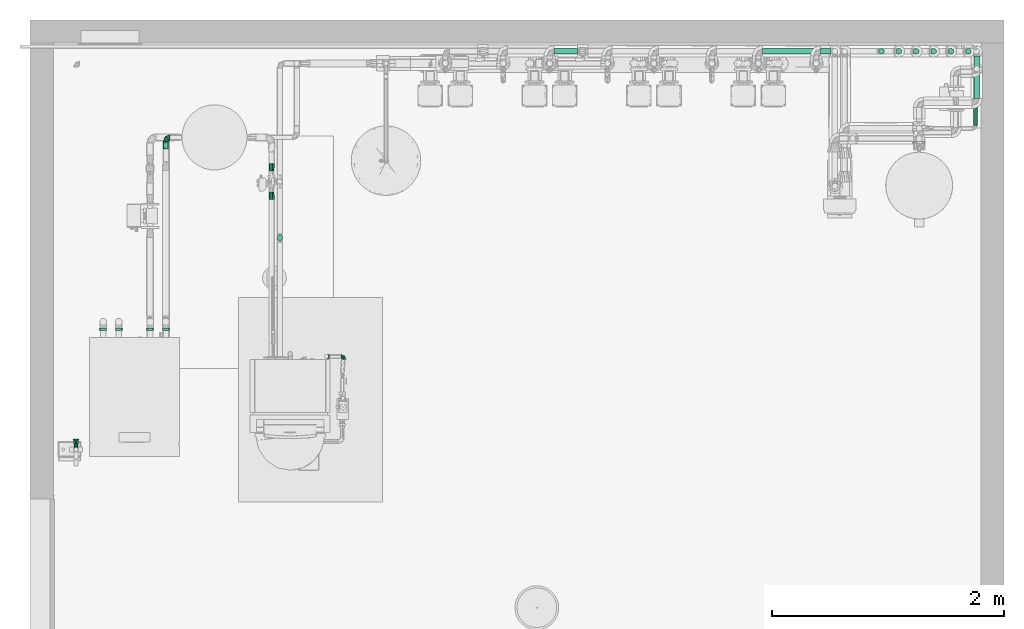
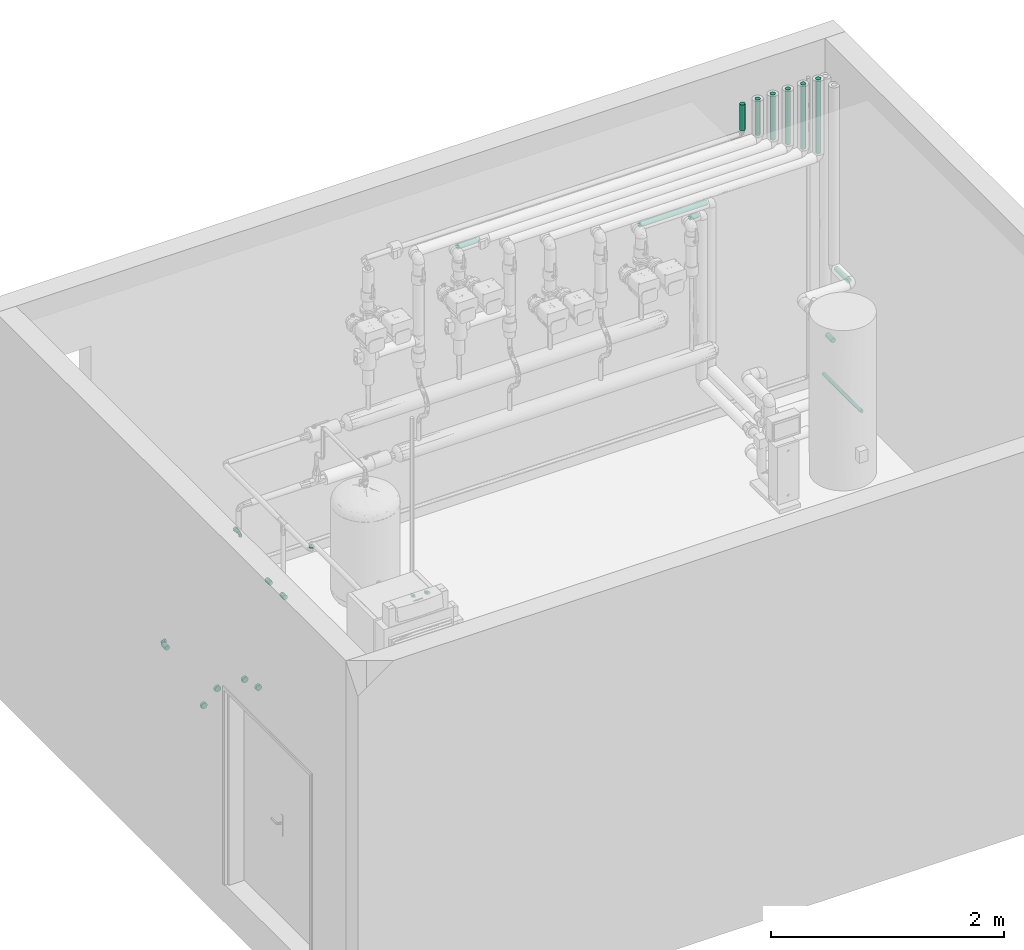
# One storey, part 87 of 94: 17 flow segments, 8 flow fittings.
"""IFC2X3 building model written with IfcOpenShell, lengths in millimetres."""

from ifc_helpers import new_model, entity, si_unit, converted_unit, derived_unit, direction, frame, frame_2d, origin, origin_2d_with_axis, place, context, subcontext, project, spatial, circle, extrude, faceted_brep, source, transform, mapped, material, type_object, type_shapes, element, save


model = new_model("IFC2X3")

# Units and contexts
model_context = context("Model", 3, precision=0.01, world=origin(), true_north=direction((6.123031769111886e-17, 1.0)))
body_context = subcontext(model_context, "Body", "Model", "MODEL_VIEW")
ifc_project = project(units=[si_unit("LENGTHUNIT", "METRE", prefix="MILLI"), si_unit("AREAUNIT", "SQUARE_METRE"), si_unit("VOLUMEUNIT", "CUBIC_METRE"), converted_unit("PLANEANGLEUNIT", "DEGREE", entity("IfcRatioMeasure", 0.017453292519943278), si_unit("PLANEANGLEUNIT", "RADIAN"), dimensions=[0, 0, 0, 0, 0, 0, 0]), si_unit("MASSUNIT", "GRAM", prefix="KILO"), derived_unit("MASSDENSITYUNIT", [(si_unit("MASSUNIT", "GRAM", prefix="KILO"), 1), (si_unit("LENGTHUNIT", "METRE"), -3)]), derived_unit("IONCONCENTRATIONUNIT", [(si_unit("MASSUNIT", "GRAM", prefix="KILO"), 1), (si_unit("LENGTHUNIT", "METRE"), -3)]), derived_unit("MOMENTOFINERTIAUNIT", [(si_unit("LENGTHUNIT", "METRE"), 4)]), si_unit("TIMEUNIT", "SECOND"), si_unit("FREQUENCYUNIT", "HERTZ"), si_unit("THERMODYNAMICTEMPERATUREUNIT", "DEGREE_CELSIUS"), derived_unit("THERMALTRANSMITTANCEUNIT", [(si_unit("MASSUNIT", "GRAM", prefix="KILO"), 1), (si_unit("THERMODYNAMICTEMPERATUREUNIT", "KELVIN"), -1), (si_unit("TIMEUNIT", "SECOND"), -3)]), derived_unit("THERMALCONDUCTANCEUNIT", [(si_unit("MASSUNIT", "GRAM", prefix="KILO"), 1), (si_unit("THERMODYNAMICTEMPERATUREUNIT", "KELVIN"), -1), (si_unit("TIMEUNIT", "SECOND"), -3), (si_unit("LENGTHUNIT", "METRE"), 1)]), derived_unit("VOLUMETRICFLOWRATEUNIT", [(si_unit("LENGTHUNIT", "METRE"), 3), (si_unit("TIMEUNIT", "SECOND"), -1)]), derived_unit("MASSFLOWRATEUNIT", [(si_unit("MASSUNIT", "GRAM", prefix="KILO"), 1), (si_unit("TIMEUNIT", "SECOND"), -1)]), derived_unit("ROTATIONALFREQUENCYUNIT", [(si_unit("TIMEUNIT", "SECOND"), -1)]), si_unit("ELECTRICCURRENTUNIT", "AMPERE"), si_unit("ELECTRICVOLTAGEUNIT", "VOLT"), si_unit("POWERUNIT", "WATT"), si_unit("FORCEUNIT", "NEWTON", prefix="KILO"), si_unit("ILLUMINANCEUNIT", "LUX"), si_unit("LUMINOUSFLUXUNIT", "LUMEN"), si_unit("LUMINOUSINTENSITYUNIT", "CANDELA"), derived_unit("USERDEFINED", [(si_unit("MASSUNIT", "GRAM", prefix="KILO"), -1), (si_unit("LENGTHUNIT", "METRE"), -2), (si_unit("TIMEUNIT", "SECOND"), 3), (si_unit("LUMINOUSFLUXUNIT", "LUMEN"), 1)]), derived_unit("USERDEFINED", [(si_unit("MASSUNIT", "GRAM", prefix="KILO"), 1), (si_unit("TIMEUNIT", "SECOND"), -3), (si_unit("LENGTHUNIT", "METRE"), 3), (si_unit("ELECTRICCURRENTUNIT", "AMPERE"), -2)]), derived_unit("SOUNDPOWERUNIT", [(si_unit("MASSUNIT", "GRAM", prefix="KILO"), 1), (si_unit("TIMEUNIT", "SECOND"), -3), (si_unit("LENGTHUNIT", "METRE"), 2)]), derived_unit("SOUNDPRESSUREUNIT", [(si_unit("MASSUNIT", "GRAM", prefix="KILO"), 1), (si_unit("LENGTHUNIT", "METRE"), -1), (si_unit("TIMEUNIT", "SECOND"), -2)]), derived_unit("LINEARVELOCITYUNIT", [(si_unit("LENGTHUNIT", "METRE"), 1), (si_unit("TIMEUNIT", "SECOND"), -1)]), si_unit("PRESSUREUNIT", "PASCAL"), derived_unit("USERDEFINED", [(si_unit("MASSUNIT", "GRAM", prefix="KILO"), 1), (si_unit("LENGTHUNIT", "METRE"), -2), (si_unit("TIMEUNIT", "SECOND"), -2)]), derived_unit("LINEARFORCEUNIT", [(si_unit("MASSUNIT", "GRAM", prefix="KILO"), 1), (si_unit("TIMEUNIT", "SECOND"), -2)]), derived_unit("PLANARFORCEUNIT", [(si_unit("MASSUNIT", "GRAM", prefix="KILO"), 1), (si_unit("LENGTHUNIT", "METRE"), -1), (si_unit("TIMEUNIT", "SECOND"), -2)]), derived_unit("SPECIFICHEATCAPACITYUNIT", [(si_unit("THERMODYNAMICTEMPERATUREUNIT", "KELVIN"), -1), (si_unit("LENGTHUNIT", "METRE"), 2), (si_unit("TIMEUNIT", "SECOND"), -2)]), derived_unit("HEATINGVALUEUNIT", [(si_unit("LENGTHUNIT", "METRE"), 2), (si_unit("TIMEUNIT", "SECOND"), -2)]), derived_unit("VAPORPERMEABILITYUNIT", [(si_unit("LENGTHUNIT", "METRE"), -1), (si_unit("TIMEUNIT", "SECOND"), 1)]), derived_unit("DYNAMICVISCOSITYUNIT", [(si_unit("MASSUNIT", "GRAM", prefix="KILO"), 1), (si_unit("TIMEUNIT", "SECOND"), -1), (si_unit("LENGTHUNIT", "METRE"), -1)]), derived_unit("THERMALEXPANSIONCOEFFICIENTUNIT", [(si_unit("THERMODYNAMICTEMPERATUREUNIT", "KELVIN"), -1)]), derived_unit("MODULUSOFELASTICITYUNIT", [(si_unit("MASSUNIT", "GRAM", prefix="KILO"), 1), (si_unit("LENGTHUNIT", "METRE"), -1), (si_unit("TIMEUNIT", "SECOND"), -2)]), derived_unit("ISOTHERMALMOISTURECAPACITYUNIT", [(si_unit("LENGTHUNIT", "METRE"), 3), (si_unit("MASSUNIT", "GRAM", prefix="KILO"), -1)]), derived_unit("MOISTUREDIFFUSIVITYUNIT", [(si_unit("TIMEUNIT", "SECOND"), -1), (si_unit("LENGTHUNIT", "METRE"), 2)])], contexts=[model_context])

# Site, building, storey
site_placement = place(None, origin())
site = spatial("IfcSite", under=ifc_project, at=site_placement, Name="Default", CompositionType="ELEMENT")
building_placement = place(site_placement, origin())
building = spatial("IfcBuilding", under=site, at=building_placement, CompositionType="ELEMENT")
storey_placement = place(building_placement, origin())
storey = spatial("IfcBuildingStorey", under=building, at=storey_placement, Name="Niveau 0", CompositionType="ELEMENT", Elevation=0.0)

# Flow segments
pipe_segment_type_1 = type_object("IfcPipeSegmentType", Name="Canalisation:Bride acier", PredefinedType="NOTDEFINED")
flow_segment_1_placement = place(storey_placement, origin())
element("IfcFlowSegment", 1, at=flow_segment_1_placement, inside=storey, type_object=pipe_segment_type_1, Name="Canalisation:Bride acier", ObjectType="Canalisation:Bride acier", context=body_context, shape_type="SweptSolid", body=[
    extrude(circle(Radius=24.13, at=origin_2d_with_axis()), frame((-6609.172313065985, 10026.845624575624, 2988.0), z_axis=(0.0, 0.0, 1.0), x_axis=(-1.0, 0.0, 0.0)), (0.0, 0.0, 1.0), 274.00000000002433),
])
flow_segment_2_placement = place(storey_placement, origin())
element("IfcFlowSegment", 2, at=flow_segment_2_placement, inside=storey, type_object=pipe_segment_type_1, Name="Canalisation:Bride acier", ObjectType="Canalisation:Bride acier", context=body_context, shape_type="SweptSolid", body=[
    extrude(circle(Radius=24.13, at=origin_2d_with_axis()), frame((-6459.172313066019, 10026.845624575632, 2888.0), z_axis=(0.0, 0.0, 1.0), x_axis=(-1.0, 0.0, 0.0)), (0.0, 0.0, 1.0), 374.00000000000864),
])
flow_segment_3_placement = place(storey_placement, origin())
element("IfcFlowSegment", 3, at=flow_segment_3_placement, inside=storey, type_object=pipe_segment_type_1, Name="Canalisation:Bride acier", ObjectType="Canalisation:Bride acier", context=body_context, shape_type="SweptSolid", body=[
    extrude(circle(Radius=24.13, at=origin_2d_with_axis()), frame((-6309.172313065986, 10026.845624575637, 2788.0), z_axis=(0.0, 0.0, 1.0), x_axis=(-1.0, 0.0, 0.0)), (0.0, 0.0, 1.0), 474.000000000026),
])
flow_segment_4_placement = place(storey_placement, origin())
element("IfcFlowSegment", 4, at=flow_segment_4_placement, inside=storey, type_object=pipe_segment_type_1, Name="Canalisation:Bride acier", ObjectType="Canalisation:Bride acier", context=body_context, shape_type="SweptSolid", body=[
    extrude(circle(Radius=24.13, at=origin_2d_with_axis()), frame((-6159.172313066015, 10026.845624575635, 2688.0), z_axis=(0.0, 0.0, 1.0), x_axis=(-1.0, 0.0, 0.0)), (0.0, 0.0, 1.0), 574.0000000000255),
])
flow_segment_5_placement = place(storey_placement, origin())
element("IfcFlowSegment", 5, at=flow_segment_5_placement, inside=storey, type_object=pipe_segment_type_1, Name="Canalisation:Bride acier", ObjectType="Canalisation:Bride acier", context=body_context, shape_type="SweptSolid", body=[
    extrude(circle(Radius=24.13, at=origin_2d_with_axis()), frame((-6009.172313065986, 10026.845624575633, 2588.0), z_axis=(0.0, 0.0, 1.0), x_axis=(-1.0, 0.0, 0.0)), (0.0, 0.0, 1.0), 674.0000000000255),
])
flow_segment_6_placement = place(storey_placement, origin())
element("IfcFlowSegment", 6, at=flow_segment_6_placement, inside=storey, type_object=pipe_segment_type_1, Name="Canalisation:Bride acier", ObjectType="Canalisation:Bride acier", context=body_context, shape_type="SweptSolid", body=[
    extrude(circle(Radius=24.13, at=origin_2d_with_axis()), frame((-5859.172313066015, 10026.845624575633, 2488.0), z_axis=(0.0, 0.0, 1.0), x_axis=(-1.0, 0.0, 0.0)), (0.0, 0.0, 1.0), 774.0000000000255),
])
flow_segment_7_placement = place(storey_placement, origin())
element("IfcFlowSegment", 7, at=flow_segment_7_placement, inside=storey, type_object=pipe_segment_type_1, Name="Canalisation:Bride acier", ObjectType="Canalisation:Bride acier", context=body_context, shape_type="SweptSolid", body=[
    extrude(circle(Radius=24.13, at=frame_2d((0.0, -2.707167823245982e-13), x_axis=(1.0, 0.0))), frame((-7634.145865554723, 10026.845624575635, 2350.0), z_axis=(1.0, 0.0, 0.0), x_axis=(0.0, -1.0, 0.0)), (0.0, 0.0, 1.0), 669.4051833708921),
])
flow_segment_8_placement = place(storey_placement, origin())
element("IfcFlowSegment", 8, at=flow_segment_8_placement, inside=storey, type_object=pipe_segment_type_1, Name="Canalisation:Bride acier", ObjectType="Canalisation:Bride acier", context=body_context, shape_type="SweptSolid", body=[
    extrude(circle(Radius=24.13, at=origin_2d_with_axis()), frame((-7134.145865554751, 10026.845624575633, 2250.0), z_axis=(1.0, 0.0, 0.0), x_axis=(0.0, -1.0, 0.0)), (0.0, 0.0, 1.0), 85.40518337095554),
])
flow_segment_9_placement = place(storey_placement, origin())
element("IfcFlowSegment", 9, at=flow_segment_9_placement, inside=storey, type_object=pipe_segment_type_1, Name="Canalisation:Bride acier", ObjectType="Canalisation:Bride acier", context=body_context, shape_type="SweptSolid", body=[
    extrude(circle(Radius=24.13, at=frame_2d((8.662937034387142e-12, 0.0), x_axis=(1.0, 0.0))), frame((-5788.904702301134, 9620.083842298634, 1363.8999999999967), z_axis=(0.0, 1.0, 0.0), x_axis=(-1.0, 0.0, 0.0)), (0.0, 0.0, 1.0), 218.7617822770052),
])
flow_segment_10_placement = place(storey_placement, origin())
element("IfcFlowSegment", 10, at=flow_segment_10_placement, inside=storey, type_object=pipe_segment_type_1, Name="Canalisation:Bride acier", ObjectType="Canalisation:Bride acier", context=body_context, shape_type="SweptSolid", body=[
    extrude(circle(Radius=24.13, at=origin_2d_with_axis()), frame((-5788.884984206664, 9888.970439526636, 578.8743081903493), z_axis=(-1.608181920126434e-07, 1.0, 0.0), x_axis=(-1.0, -1.608181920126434e-07, 0.0)), (0.0, 0.0, 1.0), 99.87605495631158),
])
flow_segment_11_placement = place(storey_placement, origin())
element("IfcFlowSegment", 11, at=flow_segment_11_placement, inside=storey, type_object=pipe_segment_type_1, Name="Canalisation:Bride acier", ObjectType="Canalisation:Bride acier", context=body_context, shape_type="SweptSolid", body=[
    extrude(circle(Radius=24.13, at=origin_2d_with_axis()), frame((-9434.145865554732, 10026.845624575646, 2750.0), z_axis=(1.0, 0.0, 0.0), x_axis=(0.0, -1.0, 0.0)), (0.0, 0.0, 1.0), 203.25883959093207),
])
flow_segment_12_placement = place(storey_placement, origin())
element("IfcFlowSegment", 12, at=flow_segment_12_placement, inside=storey, type_object=pipe_segment_type_1, Name="Canalisation:Bride acier", ObjectType="Canalisation:Bride acier", context=body_context, shape_type="SweptSolid", body=[
    extrude(circle(Radius=24.13, at=origin_2d_with_axis()), frame((-11799.29070422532, 8418.371391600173, 1415.599999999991)), (0.0, 0.0, 1.0), 12.633167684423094),
])
pipe_segment_type_2 = type_object("IfcPipeSegmentType", Name="Canalisation:Standard", PredefinedType="NOTDEFINED")
flow_segment_13_placement = place(storey_placement, origin())
element("IfcFlowSegment", 13, at=flow_segment_13_placement, inside=storey, type_object=pipe_segment_type_2, Name="Canalisation:Standard", ObjectType="Canalisation:Standard", context=body_context, shape_type="SweptSolid", body=[
    extrude(circle(Radius=16.7005, at=origin_2d_with_axis()), frame((-5798.033239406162, 9387.93325833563, 144.0), z_axis=(0.0, 1.0, 0.0), x_axis=(1.0, 0.0, 0.0)), (0.0, 0.0, 1.0), 654.2644732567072),
])
flow_segment_14_placement = place(storey_placement, origin())
element("IfcFlowSegment", 14, at=flow_segment_14_placement, inside=storey, type_object=pipe_segment_type_2, Name="Canalisation:Standard", ObjectType="Canalisation:Standard", context=body_context, shape_type="SweptSolid", body=[
    extrude(circle(Radius=30.162500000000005, at=origin_2d_with_axis()), frame((-12917.53846666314, 7617.470546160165, 902.1022517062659), z_axis=(0.0, 1.0, 0.0), x_axis=(1.0, 0.0, 0.0)), (0.0, 0.0, 1.0), 25.399735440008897),
])
flow_segment_15_placement = place(storey_placement, origin())
element("IfcFlowSegment", 15, at=flow_segment_15_placement, inside=storey, type_object=pipe_segment_type_2, Name="Canalisation:Standard", ObjectType="Canalisation:Standard", context=body_context, shape_type="SweptSolid", body=[
    extrude(circle(Radius=30.162500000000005, at=origin_2d_with_axis()), frame((-12782.538466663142, 7617.470546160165, 772.1022517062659), z_axis=(0.0, 1.0, 0.0), x_axis=(1.0, 0.0, 0.0)), (0.0, 0.0, 1.0), 25.399735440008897),
])
flow_segment_16_placement = place(storey_placement, origin())
element("IfcFlowSegment", 16, at=flow_segment_16_placement, inside=storey, type_object=pipe_segment_type_2, Name="Canalisation:Standard", ObjectType="Canalisation:Standard", context=body_context, shape_type="SweptSolid", body=[
    extrude(circle(Radius=30.162500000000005, at=origin_2d_with_axis()), frame((-13187.538466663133, 7617.470546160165, 902.1022517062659), z_axis=(0.0, 1.0, 0.0), x_axis=(1.0, 0.0, 0.0)), (0.0, 0.0, 1.0), 25.399735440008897),
])
flow_segment_17_placement = place(storey_placement, origin())
element("IfcFlowSegment", 17, at=flow_segment_17_placement, inside=storey, type_object=pipe_segment_type_2, Name="Canalisation:Standard", ObjectType="Canalisation:Standard", context=body_context, shape_type="SweptSolid", body=[
    extrude(circle(Radius=30.162500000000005, at=origin_2d_with_axis()), frame((-13322.53846666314, 7617.470546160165, 772.1022517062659), z_axis=(0.0, 1.0, 0.0), x_axis=(1.0, 0.0, 0.0)), (0.0, 0.0, 1.0), 25.399735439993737),
])

# Flow fittings
ifc_material = material(Name="<Unnamed>")
pipe_fitting_type_1 = type_object("IfcPipeFittingType", Name="Transformation - Générique:Standard", PredefinedType="NOTDEFINED", material=ifc_material)
shared_shape_1 = source(origin(), body_context, "Body", "Brep", [
    faceted_brep([(64.0, -24.15000000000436, 0.0), (64.0, -21.843880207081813, -7.097506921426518), (64.0, -19.537760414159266, -14.195013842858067), (64.0, -16.5190104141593, -16.388264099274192), (64.0, -13.500260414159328, -18.58151435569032), (64.0, -7.462760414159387, -22.968014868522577), (64.0, 0.0, -22.968014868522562), (64.0, 7.462760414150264, -22.96801486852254), (64.0, 13.500260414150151, -18.58151435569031), (64.0, 19.537760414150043, -14.195013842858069), (64.0, 20.69082031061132, -10.646260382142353), (64.0, 21.843880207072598, -7.0975069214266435), (64.0, 24.14999999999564, 0.0), (64.0, 21.843880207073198, 7.097506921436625), (64.0, 19.537760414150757, 14.195013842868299), (64.0, 16.519010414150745, 16.38826409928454), (64.0, 13.500260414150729, 18.581514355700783), (64.0, 7.462760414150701, 22.96801486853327), (64.0, 0.0, 22.968014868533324), (64.0, -7.462760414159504, 22.96801486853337), (64.0, -13.50026041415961, 18.58151435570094), (64.0, -19.537760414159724, 14.19501384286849), (64.0, -20.690820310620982, 10.64626038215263), (64.0, -21.843880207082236, 7.097506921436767), (0.0, 16.69999999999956, 0.0), (0.0, 15.477170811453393, -2.952170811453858), (0.0, 14.254341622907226, -5.904341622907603), (0.0, 13.03151243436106, -8.856512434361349), (0.0, 11.808683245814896, -11.808683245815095), (0.0, 8.856512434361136, -13.031512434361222), (0.0, 5.904341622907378, -14.254341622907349), (0.0, 2.9521708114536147, -15.477170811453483), (0.0, 0.0, -16.699999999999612), (0.0, -2.9521708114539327, -15.47717081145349), (0.0, -5.904341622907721, -14.25434162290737), (0.0, -8.856512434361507, -13.031512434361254), (0.0, -11.808683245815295, -11.808683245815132), (0.0, -13.031512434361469, -8.856512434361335), (0.0, -14.254341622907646, -5.904341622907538), (0.0, -15.47717081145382, -2.952170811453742), (0.0, -16.700000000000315, 0.0), (0.0, -15.477170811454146, 2.9521708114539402), (0.0, -14.25434162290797, 5.904341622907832), (0.0, -13.031512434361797, 8.856512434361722), (0.0, -11.808683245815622, 11.808683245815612), (0.0, -8.856512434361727, 13.031512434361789), (0.0, -5.904341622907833, 14.254341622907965), (0.0, -2.952170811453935, 15.477170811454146), (0.0, 0.0, 16.700000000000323), (0.0, 2.952170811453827, 15.477170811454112), (0.0, 5.904341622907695, 14.254341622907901), (0.0, 8.856512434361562, 13.031512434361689), (0.0, 11.808683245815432, 11.808683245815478), (0.0, 13.031512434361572, 8.856512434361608), (0.0, 14.254341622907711, 5.904341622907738), (0.0, 15.47717081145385, 2.9521708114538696)], [[[0, 1, 2, 3, 4, 5, 6, 7, 8, 9, 10, 11, 12, 13, 14, 15, 16, 17, 18, 19, 20, 21, 22, 23]], [[24, 25, 26, 27, 28, 29, 30, 31, 32, 33, 34, 35, 36, 37, 38, 39, 40, 41, 42, 43, 44, 45, 46, 47, 48, 49, 50, 51, 52, 53, 54, 55]], [[9, 28, 27]], [[38, 2, 1]], [[36, 4, 3, 2]], [[26, 11, 10]], [[5, 4, 34]], [[6, 31, 7]], [[5, 33, 6]], [[6, 33, 32]], [[35, 34, 4, 36]], [[2, 38, 37, 36]], [[12, 25, 24]], [[28, 9, 8]], [[8, 30, 29, 28]], [[12, 11, 25]], [[0, 39, 1]], [[31, 30, 7]], [[31, 6, 32]], [[5, 34, 33]], [[39, 0, 40]], [[26, 25, 11]], [[9, 27, 10]], [[27, 26, 10]], [[30, 8, 7]], [[39, 38, 1]], [[21, 44, 43]], [[54, 14, 13]], [[52, 16, 15, 14]], [[42, 23, 22]], [[17, 16, 50]], [[18, 47, 19]], [[17, 49, 18]], [[18, 49, 48]], [[51, 50, 16, 52]], [[14, 54, 53, 52]], [[0, 41, 40]], [[44, 21, 20]], [[20, 46, 45, 44]], [[0, 23, 41]], [[12, 55, 13]], [[47, 46, 19]], [[47, 18, 48]], [[17, 50, 49]], [[55, 12, 24]], [[42, 41, 23]], [[21, 43, 22]], [[43, 42, 22]], [[46, 20, 19]], [[55, 54, 13]]]),
])
type_shapes(pipe_fitting_type_1, [shared_shape_1])
flow_fitting_1_placement = place(storey_placement, frame((-13557.173210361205, 6617.595493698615, 3275.0), z_axis=(0.0, 0.0, 1.0), x_axis=(0.0, 1.0, 0.0)))
element("IfcFlowFitting", 18, at=flow_fitting_1_placement, inside=storey, type_object=pipe_fitting_type_1, material=ifc_material, Name="Transformation - Générique:Standard", ObjectType="Transformation - Générique:Standard", context=body_context, shape_type="MappedRepresentation", body=[
    mapped(shared_shape_1, transform((0.0, 0.0, 0.0), scale=1.0)),
])
pipe_fitting_type_2 = type_object("IfcPipeFittingType", Name="Coude - Générique:Standard", PredefinedType="NOTDEFINED", material=ifc_material)
shared_shape_2 = source(origin(), body_context, "Body", "Brep", [
    faceted_brep([(4.486352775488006, -4.486352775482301, 0.0), (1.0276695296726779, -1.0276695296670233, -11.808683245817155), (11.808683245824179, 25.0, -11.808683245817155), (16.70000000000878, 25.0, 0.0), (-7.322330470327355, 7.322330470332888, -16.700000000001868), (0.0, 25.0, -16.700000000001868), (-15.672330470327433, 15.672330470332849, -11.808683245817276), (-11.808683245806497, 25.0, -11.808683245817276), (-19.131013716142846, 19.13101371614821, 0.0), (-16.699999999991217, 25.0, 0.0), (-15.672330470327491, 15.672330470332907, 11.808683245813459), (-11.808683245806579, 25.0, 11.808683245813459), (-7.322330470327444, 7.322330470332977, 16.699999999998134), (0.0, 25.0, 16.699999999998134), (1.0276695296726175, -1.027669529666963, 11.808683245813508), (11.808683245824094, 25.0, 11.808683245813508), (-25.0, -16.700000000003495, 0.0), (-25.0, -11.808683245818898, -11.808683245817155), (-25.0, 0.0, -16.700000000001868), (-25.0, 11.808683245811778, -11.808683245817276), (-25.0, 16.699999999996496, 0.0), (-25.0, 11.80868324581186, 11.808683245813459), (-25.0, 0.0, 16.699999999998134), (-25.0, -11.808683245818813, 11.808683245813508)], [[[0, 1, 2, 3]], [[1, 4, 5, 2]], [[4, 6, 7, 5]], [[6, 8, 9, 7]], [[8, 10, 11, 9]], [[10, 12, 13, 11]], [[12, 14, 15, 13]], [[14, 0, 3, 15]], [[16, 17, 1, 0]], [[17, 18, 4, 1]], [[18, 19, 6, 4]], [[19, 20, 8, 6]], [[20, 21, 10, 8]], [[21, 22, 12, 10]], [[22, 23, 14, 12]], [[23, 16, 0, 14]], [[3, 2, 5, 7, 9, 11, 13, 15]], [[23, 22, 21, 20, 19, 18, 17, 16]]]),
])
type_shapes(pipe_fitting_type_2, [shared_shape_2])
for number, where, z_axis, x_axis in (
    (19, (-11396.001751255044, 7396.071425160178, 1374.4004850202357), (0.0, -1.0, 0.0), (0.0, 0.0, -1.0)),
    (20, (-11244.47714888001, 7396.071425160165, 1374.4004850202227), (0.0, 0.0, 1.0), (0.0, 1.0, 0.0)),
    (21, (-13557.1732103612, 6592.595493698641, 3275.0), (-1.0, 0.0, 0.0), (0.0, 0.0, 1.0)),
):
    element("IfcFlowFitting", number, at=place(storey_placement, frame(where, z_axis=z_axis, x_axis=x_axis)), inside=storey, type_object=pipe_fitting_type_2, material=ifc_material, Name="Coude - Générique:Standard", ObjectType="Coude - Générique:Standard", context=body_context, shape_type="MappedRepresentation", body=[
        mapped(shared_shape_2, transform((0.0, 0.0, 0.0), scale=1.0)),
    ])
pipe_fitting_type_3 = type_object("IfcPipeFittingType", Name="Coude - Générique:Standard", PredefinedType="NOTDEFINED", material=ifc_material)
shared_shape_3 = source(origin(), body_context, "Body", "Brep", [
    faceted_brep([(6.207183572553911, -6.207183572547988, 0.0), (2.9311198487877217, -2.931119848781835, -14.259073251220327), (19.62593062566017, 37.37371874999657, -14.259073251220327), (24.2589843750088, 37.37371874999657, 0.0), (-5.645726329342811, 5.6457263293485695, -23.071665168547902), (7.496438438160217, 37.37371874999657, -23.071665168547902), (-16.24729123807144, 16.247291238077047, -23.071665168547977), (-7.4964384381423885, 37.37371874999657, -23.071665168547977), (-24.824137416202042, 24.82413741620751, -14.259073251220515), (-19.625930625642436, 37.37371874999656, -14.259073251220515), (-28.100201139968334, 28.100201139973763, 0.0), (-24.258984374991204, 37.37371874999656, 0.0), (-24.82413741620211, 24.824137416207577, 14.259073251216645), (-19.625930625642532, 37.37371874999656, 14.259073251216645), (-16.24729123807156, 16.247291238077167, 23.07166516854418), (-7.496438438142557, 37.37371874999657, 23.07166516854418), (-5.645726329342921, 5.64572632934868, 23.071665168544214), (7.496438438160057, 37.37371874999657, 23.071665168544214), (2.9311198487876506, -2.931119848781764, 14.259073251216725), (19.62593062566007, 37.37371874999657, 14.259073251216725), (-37.37371874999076, -24.258984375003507, 0.0), (-37.37371874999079, -19.62593062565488, -14.259073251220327), (-37.37371874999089, -7.496438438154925, -23.071665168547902), (-37.37371874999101, 7.496438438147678, -23.071665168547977), (-37.37371874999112, 19.625930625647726, -14.259073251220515), (-37.373718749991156, 24.258984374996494, 0.0), (-37.37371874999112, 19.625930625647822, 14.259073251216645), (-37.37371874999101, 7.496438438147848, 23.07166516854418), (-37.37371874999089, -7.496438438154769, 23.071665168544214), (-37.37371874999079, -19.62593062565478, 14.259073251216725)], [[[0, 1, 2, 3]], [[1, 4, 5, 2]], [[4, 6, 7, 5]], [[6, 8, 9, 7]], [[8, 10, 11, 9]], [[10, 12, 13, 11]], [[12, 14, 15, 13]], [[14, 16, 17, 15]], [[16, 18, 19, 17]], [[18, 0, 3, 19]], [[20, 21, 1, 0]], [[21, 22, 4, 1]], [[22, 23, 6, 4]], [[23, 24, 8, 6]], [[24, 25, 10, 8]], [[25, 26, 12, 10]], [[26, 27, 14, 12]], [[27, 28, 16, 14]], [[28, 29, 18, 16]], [[29, 20, 0, 18]], [[3, 2, 5, 7, 9, 11, 13, 15, 17, 19]], [[29, 28, 27, 26, 25, 24, 23, 22, 21, 20]]]),
])
type_shapes(pipe_fitting_type_3, [shared_shape_3])
flow_fitting_2_placement = place(storey_placement, frame((-12782.538466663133, 9285.477679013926, 238.3753033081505), z_axis=(0.0, 0.0, 1.0), x_axis=(-1.0, 0.0, 0.0)))
element("IfcFlowFitting", 22, at=flow_fitting_2_placement, inside=storey, type_object=pipe_fitting_type_3, material=ifc_material, Name="Coude - Générique:Standard", ObjectType="Coude - Générique:Standard", context=body_context, shape_type="MappedRepresentation", body=[
    mapped(shared_shape_3, transform((0.0, 0.0, 0.0), scale=1.0)),
])
pipe_fitting_type_4 = type_object("IfcPipeFittingType", Name="Transformation - Générique:Standard", PredefinedType="NOTDEFINED", material=ifc_material)
shared_shape_4 = source(origin(), body_context, "Body", "Brep", [
    faceted_brep([(64.0, 24.149999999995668, -0.042135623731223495), (64.0, 21.843880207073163, 7.0553712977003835), (64.0, 19.537760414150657, 14.152878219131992), (64.0, 13.500260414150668, 18.539378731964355), (64.0, 7.462760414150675, 22.925879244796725), (64.0, 0.0, 22.925879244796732), (64.0, -7.462760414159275, 22.925879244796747), (64.0, -13.500260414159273, 18.5393787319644), (64.0, -19.53776041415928, 14.152878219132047), (64.0, -21.843880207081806, 7.055371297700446), (64.0, -24.150000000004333, -0.04213562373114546), (64.0, -21.84388020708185, -7.139642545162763), (64.0, -19.537760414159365, -14.23714946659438), (64.0, -13.500260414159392, -18.623649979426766), (64.0, -7.462760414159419, -23.010150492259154), (64.0, 0.0, -23.010150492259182), (64.0, 7.462760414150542, -23.010150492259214), (64.0, 13.500260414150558, -18.623649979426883), (64.0, 19.53776041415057, -14.237149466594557), (64.0, 21.843880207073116, -7.139642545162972), (0.0, -24.258984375, 0.0), (0.0, -22.700312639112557, 4.7970983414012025), (0.0, -21.141640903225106, 9.594196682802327), (0.0, -19.62593062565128, 14.259073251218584), (0.0, -13.561184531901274, 18.665369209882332), (0.0, -7.496438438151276, 23.07166516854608), (0.0, 0.0, 23.071665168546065), (0.0, 7.496438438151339, 23.071665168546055), (0.0, 13.56118453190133, 18.66536920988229), (0.0, 19.62593062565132, 14.25907325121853), (0.0, 21.14164056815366, 9.59419771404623), (0.0, 22.70031247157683, 4.797098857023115), (0.0, 24.258984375, 0.0), (0.0, 22.70031089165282, -4.797103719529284), (0.0, 21.14163740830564, -9.594207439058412), (0.0, 19.625930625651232, -14.259073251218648), (0.0, 13.561184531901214, -18.66536920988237), (0.0, 7.4964384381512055, -23.0716651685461), (0.0, 0.0, -23.071665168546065), (0.0, -7.4964384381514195, -23.071665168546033), (0.0, -13.56118453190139, -18.66536920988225), (0.0, -19.625930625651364, -14.259073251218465), (0.0, -21.141637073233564, -9.59420847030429), (0.0, -22.700310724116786, -4.797104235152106), (29.625534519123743, -23.001791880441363, -7.567402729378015), (31.999999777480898, -20.938158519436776, -12.164006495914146), (32.0, 20.938159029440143, -12.164005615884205), (32.0, 17.546224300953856, -16.694023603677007), (32.0, 10.988609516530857, -21.58742825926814), (32.0, -10.988609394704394, -21.587428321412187), (32.00000006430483, -17.54622323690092, -16.69402472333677), (32.0, -3.7864167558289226, -23.927562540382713), (34.880512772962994, -24.199587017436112, -0.0229642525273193), (32.0, 3.786416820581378, -23.927562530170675), (29.625536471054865, 23.001792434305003, -7.567401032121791), (34.88050814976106, 24.199587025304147, -0.02296424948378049), (29.625539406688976, 23.001794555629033, 7.528385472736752), (31.99999977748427, 20.93816139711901, 12.121865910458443), (32.0, -20.938161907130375, 12.121865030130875), (32.0, -17.546233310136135, 16.651878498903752), (32.0, -10.988609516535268, 21.545292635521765), (32.0, 10.988609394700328, 21.545292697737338), (32.00000006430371, 17.54623224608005, 16.651879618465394), (32.0, 3.786416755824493, 23.885426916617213), (32.0, -3.7864168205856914, 23.885426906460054), (29.625541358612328, -23.00179510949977, 7.528383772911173)], [[[0, 1, 2, 3, 4, 5, 6, 7, 8, 9, 10, 11, 12, 13, 14, 15, 16, 17, 18, 19]], [[20, 21, 22, 23, 24, 25, 26, 27, 28, 29, 30, 31, 32, 33, 34, 35, 36, 37, 38, 39, 40, 41, 42, 43]], [[11, 44, 45]], [[35, 46, 47]], [[16, 48, 17]], [[40, 49, 50]], [[42, 41, 45]], [[50, 45, 41]], [[49, 40, 39]], [[45, 44, 42]], [[14, 49, 51]], [[43, 52, 20]], [[10, 52, 11]], [[16, 53, 48]], [[15, 51, 53]], [[13, 12, 50]], [[46, 18, 47]], [[17, 48, 47]], [[34, 54, 46]], [[12, 45, 50]], [[13, 50, 49]], [[40, 50, 41]], [[15, 14, 51]], [[15, 53, 16]], [[37, 53, 51, 39, 38]], [[11, 45, 12]], [[46, 35, 34]], [[19, 54, 55]], [[19, 55, 0]], [[33, 32, 55]], [[19, 18, 46]], [[17, 47, 18]], [[36, 35, 47]], [[52, 43, 44]], [[43, 42, 44]], [[52, 44, 11]], [[54, 34, 33]], [[55, 54, 33]], [[46, 54, 19]], [[51, 49, 39]], [[13, 49, 14]], [[48, 53, 37]], [[37, 36, 48]], [[47, 48, 36]], [[1, 56, 57]], [[23, 58, 59]], [[6, 60, 7]], [[28, 61, 62]], [[30, 29, 57]], [[62, 57, 29]], [[61, 28, 27]], [[57, 56, 30]], [[4, 61, 63]], [[31, 55, 32]], [[0, 55, 1]], [[6, 64, 60]], [[5, 63, 64]], [[3, 2, 62]], [[58, 8, 59]], [[7, 60, 59]], [[22, 65, 58]], [[2, 57, 62]], [[3, 62, 61]], [[28, 62, 29]], [[5, 4, 63]], [[5, 64, 6]], [[25, 64, 63, 27, 26]], [[1, 57, 2]], [[58, 23, 22]], [[9, 65, 52]], [[9, 52, 10]], [[21, 20, 52]], [[9, 8, 58]], [[7, 59, 8]], [[24, 23, 59]], [[55, 31, 56]], [[31, 30, 56]], [[55, 56, 1]], [[65, 22, 21]], [[52, 65, 21]], [[58, 65, 9]], [[63, 61, 27]], [[3, 61, 4]], [[60, 64, 25]], [[25, 24, 60]], [[59, 60, 24]]]),
])
type_shapes(pipe_fitting_type_4, [shared_shape_4])
flow_fitting_3_placement = place(storey_placement, frame((-12782.538466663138, 9248.103960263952, 238.37530330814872), z_axis=(0.0, 0.0, 1.0), x_axis=(0.0, -1.0, 0.0)))
element("IfcFlowFitting", 23, at=flow_fitting_3_placement, inside=storey, type_object=pipe_fitting_type_4, material=ifc_material, Name="Transformation - Générique:Standard", ObjectType="Transformation - Générique:Standard", context=body_context, shape_type="MappedRepresentation", body=[
    mapped(shared_shape_4, transform((0.0, 0.0, 0.0), scale=1.0)),
])
pipe_fitting_type_5 = type_object("IfcPipeFittingType", Name="Transformation - Générique:Standard", PredefinedType="NOTDEFINED", material=ifc_material)
shared_shape_5 = source(origin(), body_context, "Body", "Brep", [
    faceted_brep([(64.0, 17.07752709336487, -12.407549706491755), (64.0, 19.09325573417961, -6.2037748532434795), (64.0, 21.108984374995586, 0.0), (64.0, 19.093255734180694, 6.203774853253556), (64.0, 17.0775270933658, 12.407549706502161), (64.0, 11.80028099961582, 16.2416934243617), (64.0, 6.523034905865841, 20.075837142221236), (64.0, 0.0, 20.075837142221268), (64.0, -6.523034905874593, 20.075837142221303), (64.0, -11.80028099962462, 16.241693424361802), (64.0, -17.07752709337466, 12.407549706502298), (64.0, -19.093255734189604, 6.203774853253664), (64.0, -21.10898437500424, 0.0), (64.0, -19.09325573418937, -6.203774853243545), (64.0, -17.077527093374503, -12.40754970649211), (64.0, -11.80028099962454, -16.241693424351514), (64.0, -6.523034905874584, -20.07583714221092), (64.0, 0.0, -20.07583714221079), (64.0, 6.523034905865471, -20.075837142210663), (64.0, 11.800280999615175, -16.241693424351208), (0.0, 24.14999999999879, 0.0), (0.0, 21.843880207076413, -7.097506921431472), (0.0, 19.53776041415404, -14.195013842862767), (0.0, 13.500260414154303, -18.581514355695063), (0.0, 7.462760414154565, -22.968014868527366), (0.0, 0.0, -22.96801486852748), (0.0, -7.46276041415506, -22.968014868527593), (0.0, -13.500260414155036, -18.58151435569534), (0.0, -19.537760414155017, -14.195013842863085), (0.0, -21.01354286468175, -9.653022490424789), (0.0, -22.489325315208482, -5.1110311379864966), (0.0, -24.15000000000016, 0.0), (0.0, -21.84388020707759, 7.097506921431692), (0.0, -19.53776041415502, 14.195013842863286), (0.0, -13.500260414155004, 18.58151435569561), (0.0, -7.462760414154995, 22.968014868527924), (0.0, 0.0, 22.968014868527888), (0.0, 7.462760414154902, 22.968014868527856), (0.0, 13.500260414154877, 18.581514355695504), (0.0, 19.537760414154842, 14.195013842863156), (0.0, 21.01354286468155, 9.65302249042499), (0.0, 22.489325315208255, 5.111031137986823)], [[[0, 1, 2, 3, 4, 5, 6, 7, 8, 9, 10, 11, 12, 13, 14, 15, 16, 17, 18, 19]], [[20, 21, 22, 23, 24, 25, 26, 27, 28, 29, 30, 31, 32, 33, 34, 35, 36, 37, 38, 39, 40, 41]], [[1, 0, 22, 21, 20, 2]], [[25, 24, 18, 17, 16, 26]], [[24, 23, 22, 0, 19, 18]], [[16, 15, 14, 28, 27, 26]], [[29, 28, 14, 13, 12, 31, 30]], [[11, 10, 33, 32, 31, 12]], [[36, 35, 8, 7, 6, 37]], [[35, 34, 33, 10, 9, 8]], [[6, 5, 4, 39, 38, 37]], [[40, 39, 4, 3, 2, 20, 41]]]),
])
type_shapes(pipe_fitting_type_5, [shared_shape_5])
for number, where, z_axis, x_axis in (
    (24, (-11869.29070422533, 8747.827877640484, 710.2331746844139), (0.0, 0.0, 1.0), (0.0, 1.0, 0.0)),
    (25, (-11869.290704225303, 9059.827877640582, 710.2331746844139), (0.0, 0.0, 1.0), (0.0, -1.0, 0.0)),
):
    element("IfcFlowFitting", number, at=place(storey_placement, frame(where, z_axis=z_axis, x_axis=x_axis)), inside=storey, type_object=pipe_fitting_type_5, material=ifc_material, Name="Transformation - Générique:Standard", ObjectType="Transformation - Générique:Standard", context=body_context, shape_type="MappedRepresentation", body=[
        mapped(shared_shape_5, transform((0.0, 0.0, 0.0), scale=1.0)),
    ])

save(model, "model.ifc")
